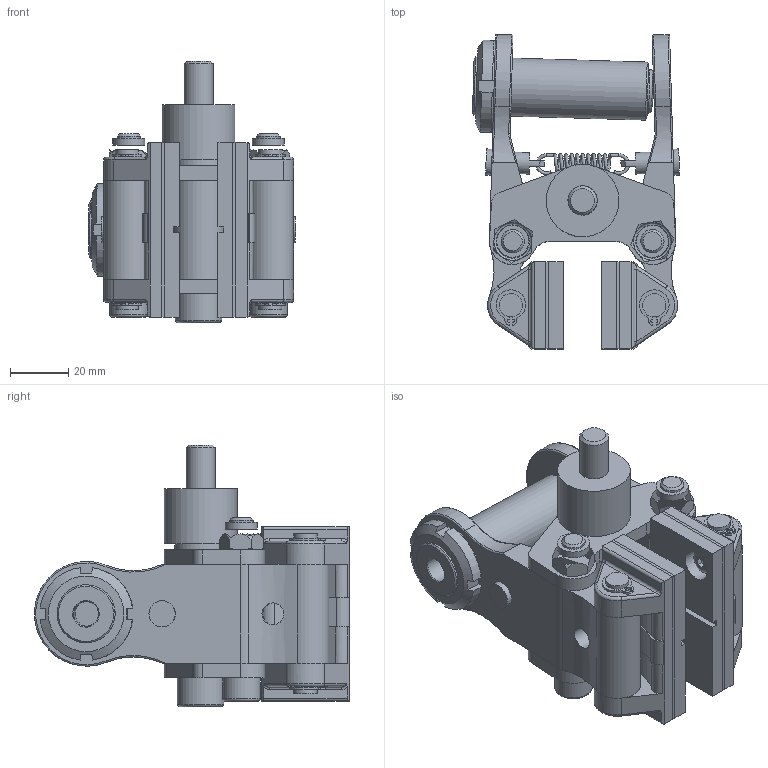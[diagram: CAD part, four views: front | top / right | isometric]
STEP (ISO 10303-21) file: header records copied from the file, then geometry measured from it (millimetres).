
FILE_DESCRIPTION(/* description */ ('','CAx-IF Rec.Pracs.---Representation and Presentation of Product Manufacturing Information (PMI)---4.0---2014-10-13'),/* implementation_level */ '2;1');
FILE_NAME(/* name */ 'X:\INVENTOR\DISEGNI\19_Pinze\STEP x Sito\PNEUM-POSITIVE\19_16_A01_03 PPAA01_12,7.stp',/* time_stamp */ '2018-02-16T16:30:21+01:00',/* author */ ('stefano'),/* organization */ (''),/* preprocessor_version */ 'ST-DEVELOPER v17',/* originating_system */ 'Autodesk Inventor 2018',/* authorisation */ '');
FILE_SCHEMA (('AP242_MANAGED_MODEL_BASED_3D_ENGINEERING_MIM_LF { 1 0 10303 442 1 1 4 }'));
Length unit declared in the file: millimetre
Products named in the file (1): 19_16_A01_03 PPAA01_12,7_Substitute_2
Bounding box: 71.19 x 108.27 x 90 mm (x, y, z)
Volume: 164102.3 mm3; surface area: 55439.4 mm2
Topology: 1 solids, 1 shells, 505 faces, 1392 edges, 905 vertices
Faces by surface type: plane 251, cylinder 156, torus 45, cone 29, bspline 21, sphere 3
Full cylindrical faces by diameter (mm): 1.1 x2, 2.5 x2, 7.4 x2, 7.5 x4, 7.6 x4, 8 x10, 8.566 x1, 9 x2, 9.5 x4, 10 x1, 10.1 x1, 10.5 x4, 11.05 x2, 13 x2, 15 x1, 16 x1, 18 x2, 20 x2, 25 x1
Entity records: 19134 total; most frequent: CARTESIAN_POINT 5627, ORIENTED_EDGE 2762, DIRECTION 2755, EDGE_CURVE 1381, AXIS2_PLACEMENT_3D 1064, VERTEX_POINT 905, LINE 627, VECTOR 627
